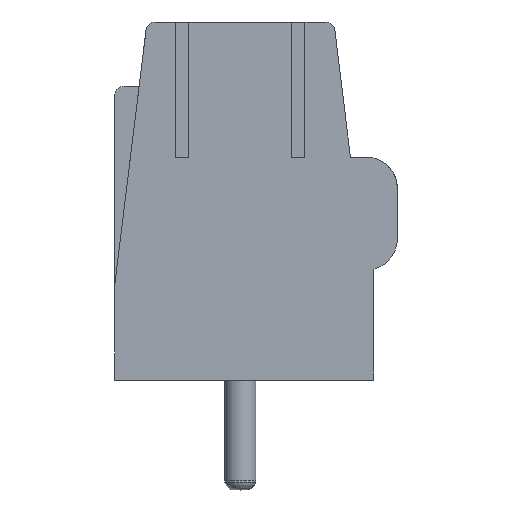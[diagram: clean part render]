
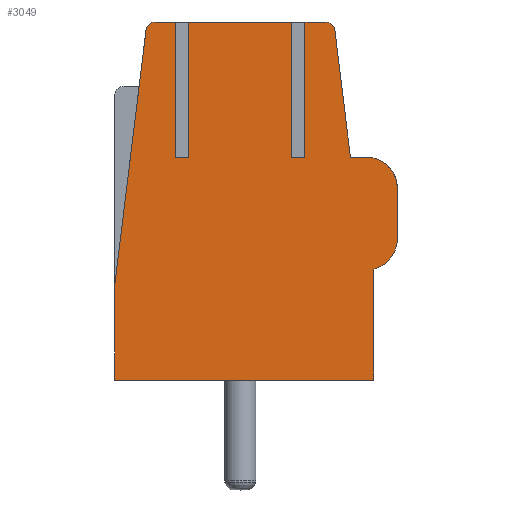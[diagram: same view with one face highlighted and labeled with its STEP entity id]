
A CAD part, left-side view. The second image highlights one B-rep face of the part: STEP entity #3049.
In plain terms, the highlighted planar face has unit normal (-1, 0, 0).
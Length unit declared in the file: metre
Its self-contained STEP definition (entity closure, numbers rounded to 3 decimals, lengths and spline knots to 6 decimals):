
#1375 = EDGE_CURVE( '', #3928, #3929, #3930, .T. );
#1579 = EDGE_CURVE( '', #4282, #4283, #4284, .T. );
#1703 = EDGE_CURVE( '', #4484, #4485, #4486, .T. );
#1921 = EDGE_CURVE( '', #3672, #4821, #4822, .T. );
#1989 = EDGE_CURVE( '', #4921, #4922, #4923, .T. );
#2043 = EDGE_CURVE( '', #5004, #5005, #5006, .T. );
#2045 = EDGE_CURVE( '', #3929, #4603, #5008, .T. );
#2531 = EDGE_CURVE( '', #4283, #5670, #5671, .T. );
#2677 = EDGE_CURVE( '', #4155, #5004, #5856, .T. );
#2759 = EDGE_CURVE( '', #4821, #4922, #5960, .T. );
#2915 = EDGE_CURVE( '', #4485, #5749, #6163, .T. );
#3001 = EDGE_CURVE( '', #4282, #5653, #6273, .T. );
#3049 = ADVANCED_FACE( '', ( #6330 ), #6331, .T. );
#3123 = EDGE_CURVE( '', #4484, #3891, #6422, .T. );
#3285 = EDGE_CURVE( '', #4385, #6382, #6613, .T. );
#3467 = EDGE_CURVE( '', #3891, #6382, #6833, .T. );
#3469 = EDGE_CURVE( '', #4603, #5653, #6835, .T. );
#3531 = EDGE_CURVE( '', #3928, #5005, #6906, .T. );
#3539 = EDGE_CURVE( '', #4921, #4155, #6917, .T. );
#3603 = EDGE_CURVE( '', #4385, #5670, #6997, .T. );
#3605 = EDGE_CURVE( '', #5749, #3672, #6999, .T. );
#3672 = VERTEX_POINT( '', #7068 );
#3891 = VERTEX_POINT( '', #7435 );
#3928 = VERTEX_POINT( '', #7485 );
#3929 = VERTEX_POINT( '', #7486 );
#3930 = LINE( '', #7487, #7488 );
#4155 = VERTEX_POINT( '', #7803 );
#4282 = VERTEX_POINT( '', #7983 );
#4283 = VERTEX_POINT( '', #7984 );
#4284 = LINE( '', #7985, #7986 );
#4385 = VERTEX_POINT( '', #8135 );
#4484 = VERTEX_POINT( '', #8301 );
#4485 = VERTEX_POINT( '', #8302 );
#4486 = LINE( '', #8303, #8304 );
#4603 = VERTEX_POINT( '', #8471 );
#4821 = VERTEX_POINT( '', #8791 );
#4822 = LINE( '', #8792, #8793 );
#4921 = VERTEX_POINT( '', #8962 );
#4922 = VERTEX_POINT( '', #8963 );
#4923 = LINE( '', #8964, #8965 );
#5004 = VERTEX_POINT( '', #9096 );
#5005 = VERTEX_POINT( '', #9097 );
#5006 = LINE( '', #9098, #9099 );
#5008 = LINE( '', #9102, #9103 );
#5653 = VERTEX_POINT( '', #10344 );
#5670 = VERTEX_POINT( '', #10366 );
#5671 = LINE( '', #10367, #10368 );
#5749 = VERTEX_POINT( '', #10538 );
#5856 = LINE( '', #10709, #10710 );
#5960 = LINE( '', #10925, #10926 );
#6163 = CIRCLE( '', #11245, 0.001 );
#6273 = LINE( '', #11427, #11428 );
#6330 = FACE_OUTER_BOUND( '', #11578, .T. );
#6331 = PLANE( '', #11579 );
#6382 = VERTEX_POINT( '', #11665 );
#6422 = CIRCLE( '', #11738, 0.001 );
#6613 = LINE( '', #12233, #12234 );
#6833 = LINE( '', #12663, #12664 );
#6835 = LINE( '', #12667, #12668 );
#6906 = LINE( '', #12781, #12782 );
#6917 = CIRCLE( '', #12796, 0.0003 );
#6997 = CIRCLE( '', #12912, 0.0003 );
#6999 = LINE( '', #12915, #12916 );
#7068 = CARTESIAN_POINT( '', ( -0.010003, -0.003749, 0.00008 ) );
#7435 = CARTESIAN_POINT( '', ( -0.010003, -0.003519, 0.00718 ) );
#7485 = CARTESIAN_POINT( '', ( -0.010003, 0.002144, 0.00718 ) );
#7486 = CARTESIAN_POINT( '', ( -0.010003, 0.002144, 0.01148 ) );
#7487 = CARTESIAN_POINT( '', ( -0.010003, 0.002144, -0.005468 ) );
#7488 = VECTOR( '', #13241, 1. );
#7803 = CARTESIAN_POINT( '', ( -0.010003, 0.003217, 0.01148 ) );
#7983 = CARTESIAN_POINT( '', ( -0.010003, -0.001556, 0.00718 ) );
#7984 = CARTESIAN_POINT( '', ( -0.010003, -0.001556, 0.01148 ) );
#7985 = CARTESIAN_POINT( '', ( -0.010003, -0.001556, -0.005468 ) );
#7986 = VECTOR( '', #13601, 1. );
#8135 = CARTESIAN_POINT( '', ( -0.010003, -0.002499, 0.011299 ) );
#8301 = CARTESIAN_POINT( '', ( -0.010003, -0.004499, 0.00618 ) );
#8302 = CARTESIAN_POINT( '', ( -0.010003, -0.004499, 0.00458 ) );
#8303 = CARTESIAN_POINT( '', ( -0.010003, -0.004499, -0.005468 ) );
#8304 = VECTOR( '', #13792, 1. );
#8471 = CARTESIAN_POINT( '', ( -0.010003, -0.001142, 0.01148 ) );
#8791 = CARTESIAN_POINT( '', ( -0.010003, 0.004501, 0.00008 ) );
#8792 = CARTESIAN_POINT( '', ( -0.010003, 0.051201, 0.00008 ) );
#8793 = VECTOR( '', #14202, 1. );
#8962 = CARTESIAN_POINT( '', ( -0.010003, 0.003492, 0.011299 ) );
#8963 = CARTESIAN_POINT( '', ( -0.010003, 0.004501, 0.00308 ) );
#8964 = CARTESIAN_POINT( '', ( -0.010003, 0.005551, -0.005468 ) );
#8965 = VECTOR( '', #14319, 1. );
#9096 = CARTESIAN_POINT( '', ( -0.010003, 0.002558, 0.01148 ) );
#9097 = CARTESIAN_POINT( '', ( -0.010003, 0.002558, 0.00718 ) );
#9098 = CARTESIAN_POINT( '', ( -0.010003, 0.002558, -0.005468 ) );
#9099 = VECTOR( '', #14399, 1. );
#9102 = CARTESIAN_POINT( '', ( -0.010003, 0.051201, 0.01148 ) );
#9103 = VECTOR( '', #14400, 1. );
#10344 = CARTESIAN_POINT( '', ( -0.010003, -0.001142, 0.00718 ) );
#10366 = CARTESIAN_POINT( '', ( -0.010003, -0.002224, 0.01148 ) );
#10367 = CARTESIAN_POINT( '', ( -0.010003, 0.051201, 0.01148 ) );
#10368 = VECTOR( '', #15366, 1. );
#10538 = CARTESIAN_POINT( '', ( -0.010003, -0.003749, 0.003612 ) );
#10709 = CARTESIAN_POINT( '', ( -0.010003, 0.051201, 0.01148 ) );
#10710 = VECTOR( '', #15616, 1. );
#10925 = CARTESIAN_POINT( '', ( -0.010003, 0.004501, -0.005468 ) );
#10926 = VECTOR( '', #15765, 1. );
#11245 = AXIS2_PLACEMENT_3D( '', #16050, #16051, #16052 );
#11427 = CARTESIAN_POINT( '', ( -0.010003, 0.051201, 0.00718 ) );
#11428 = VECTOR( '', #16230, 1. );
#11578 = EDGE_LOOP( '', ( #16300, #16301, #16302, #16303, #16304, #16305, #16306, #16307, #16308, #16309, #16310, #16311, #16312, #16313, #16314, #16315, #16316, #16317, #16318, #16319 ) );
#11579 = AXIS2_PLACEMENT_3D( '', #16320, #16321, #16322 );
#11665 = CARTESIAN_POINT( '', ( -0.010003, -0.003005, 0.00718 ) );
#11738 = AXIS2_PLACEMENT_3D( '', #16457, #16458, #16459 );
#12233 = CARTESIAN_POINT( '', ( -0.010003, -0.004558, -0.005468 ) );
#12234 = VECTOR( '', #16719, 1. );
#12663 = CARTESIAN_POINT( '', ( -0.010003, 0.051201, 0.00718 ) );
#12664 = VECTOR( '', #17035, 1. );
#12667 = CARTESIAN_POINT( '', ( -0.010003, -0.001142, -0.005468 ) );
#12668 = VECTOR( '', #17036, 1. );
#12781 = CARTESIAN_POINT( '', ( -0.010003, 0.051201, 0.00718 ) );
#12782 = VECTOR( '', #17128, 1. );
#12796 = AXIS2_PLACEMENT_3D( '', #17144, #17145, #17146 );
#12912 = AXIS2_PLACEMENT_3D( '', #17294, #17295, #17296 );
#12915 = CARTESIAN_POINT( '', ( -0.010003, -0.003749, -0.005468 ) );
#12916 = VECTOR( '', #17297, 1. );
#13241 = DIRECTION( '', ( 0., 0., 1. ) );
#13601 = DIRECTION( '', ( 0., 0., 1. ) );
#13792 = DIRECTION( '', ( 0., 0., -1. ) );
#14202 = DIRECTION( '', ( 0., 1., 0. ) );
#14319 = DIRECTION( '', ( 0., 0.122, -0.993 ) );
#14399 = DIRECTION( '', ( 0., 0., -1. ) );
#14400 = DIRECTION( '', ( 0., -1., 0. ) );
#15366 = DIRECTION( '', ( 0., -1., 0. ) );
#15616 = DIRECTION( '', ( 0., -1., 0. ) );
#15765 = DIRECTION( '', ( 0., 0., 1. ) );
#16050 = CARTESIAN_POINT( '', ( -0.010003, -0.003499, 0.00458 ) );
#16051 = DIRECTION( '', ( 1., 0., 0. ) );
#16052 = DIRECTION( '', ( 0., 0., -1. ) );
#16230 = DIRECTION( '', ( 0., 1., 0. ) );
#16300 = ORIENTED_EDGE( '', *, *, #1703, .F. );
#16301 = ORIENTED_EDGE( '', *, *, #3123, .T. );
#16302 = ORIENTED_EDGE( '', *, *, #3467, .T. );
#16303 = ORIENTED_EDGE( '', *, *, #3285, .F. );
#16304 = ORIENTED_EDGE( '', *, *, #3603, .T. );
#16305 = ORIENTED_EDGE( '', *, *, #2531, .F. );
#16306 = ORIENTED_EDGE( '', *, *, #1579, .F. );
#16307 = ORIENTED_EDGE( '', *, *, #3001, .T. );
#16308 = ORIENTED_EDGE( '', *, *, #3469, .F. );
#16309 = ORIENTED_EDGE( '', *, *, #2045, .F. );
#16310 = ORIENTED_EDGE( '', *, *, #1375, .F. );
#16311 = ORIENTED_EDGE( '', *, *, #3531, .T. );
#16312 = ORIENTED_EDGE( '', *, *, #2043, .F. );
#16313 = ORIENTED_EDGE( '', *, *, #2677, .F. );
#16314 = ORIENTED_EDGE( '', *, *, #3539, .F. );
#16315 = ORIENTED_EDGE( '', *, *, #1989, .T. );
#16316 = ORIENTED_EDGE( '', *, *, #2759, .F. );
#16317 = ORIENTED_EDGE( '', *, *, #1921, .F. );
#16318 = ORIENTED_EDGE( '', *, *, #3605, .F. );
#16319 = ORIENTED_EDGE( '', *, *, #2915, .F. );
#16320 = CARTESIAN_POINT( '', ( -0.010003, 0.003002, 0.01138 ) );
#16321 = DIRECTION( '', ( -1., 0., 0. ) );
#16322 = DIRECTION( '', ( 0., 1., 0. ) );
#16457 = CARTESIAN_POINT( '', ( -0.010003, -0.003499, 0.00618 ) );
#16458 = DIRECTION( '', ( -1., 0., 0. ) );
#16459 = DIRECTION( '', ( 0., 0., 1. ) );
#16719 = DIRECTION( '', ( 0., -0.122, -0.993 ) );
#17035 = DIRECTION( '', ( 0., 1., 0. ) );
#17036 = DIRECTION( '', ( 0., 0., -1. ) );
#17128 = DIRECTION( '', ( 0., 1., 0. ) );
#17144 = CARTESIAN_POINT( '', ( -0.010003, 0.003217, 0.01118 ) );
#17145 = DIRECTION( '', ( 1., 0., 0. ) );
#17146 = DIRECTION( '', ( 0., 0., 1. ) );
#17294 = CARTESIAN_POINT( '', ( -0.010003, -0.002224, 0.01118 ) );
#17295 = DIRECTION( '', ( -1., 0., 0. ) );
#17296 = DIRECTION( '', ( 0., 0., -1. ) );
#17297 = DIRECTION( '', ( 0., 0., -1. ) );
